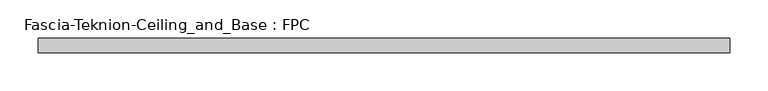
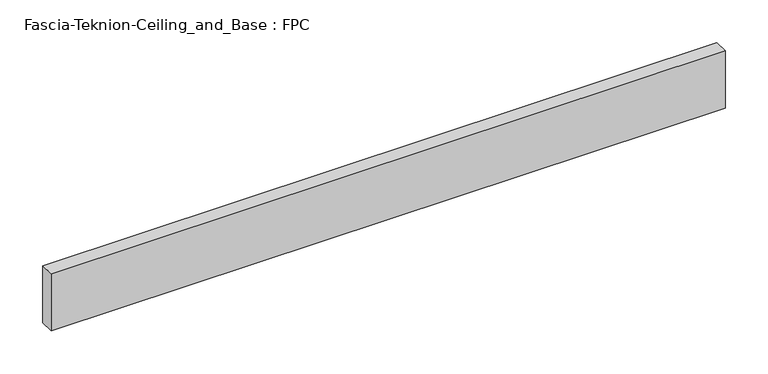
"""IFC4 building model written with IfcOpenShell, lengths in millimetres: proxy geometry, Fascia-Teknion-Ceiling_and_Base : FPC."""

import ifcopenshell
import ifcopenshell.guid

model = None  # the IFC model being written
_history = None  # IfcOwnerHistory: only IFC2X3 demands one
_inside = {}  # id of a spatial element -> (the spatial element, [elements in it])
_under = {}  # id of a project, library or spatial element -> (it, [spatial elements below it])
_declared = {}  # id of a project -> (the project, [libraries it declares])
_typed = {}  # id of a type object -> (the type object, [elements of that type])
_made_of = {}  # id of a material, layer set ... -> (it, [elements and type objects made of it])


def new_model(schema):
    """Start an empty IFC model of exactly this schema.

    Asked for "IFC4X3", IfcOpenShell would pick the latest addendum, in which some entities
    have other attributes; the version numbers below select the first issue.
    IFC2X3 requires an IfcOwnerHistory on every rooted entity: one is made here for all.
    """
    global model, _history
    if schema == "IFC4X3":
        model = ifcopenshell.file(schema_version=(4, 3, 0, 0))
    else:
        model = ifcopenshell.file(schema=schema)
    _inside.clear()
    _under.clear()
    _declared.clear()
    _typed.clear()
    _made_of.clear()
    _history = None
    if model.schema == "IFC2X3":
        org = make("IfcOrganization", Name="unknown")
        user = make(
            "IfcPersonAndOrganization",
            ThePerson=make("IfcPerson", FamilyName="unknown"),
            TheOrganization=org,
        )
        app = make(
            "IfcApplication",
            ApplicationDeveloper=org,
            Version="unknown",
            ApplicationFullName="unknown",
            ApplicationIdentifier="unknown",
        )
        _history = make(
            "IfcOwnerHistory",
            OwningUser=user,
            OwningApplication=app,
            ChangeAction="ADDED",
            CreationDate=0,
        )
    return model


def make(cls, **values):
    """One entity of the class cls with the attributes given. An attribute that is None is left unset."""
    return model.create_entity(
        cls, **{name: value for name, value in values.items() if value is not None}
    )


def rooted(cls, **values):
    """An entity with a GlobalId (a new one), such as an element, a storey or a relation."""
    return make(cls, GlobalId=ifcopenshell.guid.new(), OwnerHistory=_history, **values)


def si_unit(unit_type, name, prefix=None):
    """IfcSIUnit, for example si_unit("LENGTHUNIT", "METRE", prefix="MILLI")."""
    return make("IfcSIUnit", UnitType=unit_type, Prefix=prefix, Name=name)


def assignment(units):
    """IfcUnitAssignment: the units of a project."""
    return None if units is None else make("IfcUnitAssignment", Units=units)


def point(xyz):
    """IfcCartesianPoint."""
    return None if xyz is None else make("IfcCartesianPoint", Coordinates=xyz)


def direction(xyz):
    """IfcDirection."""
    return None if xyz is None else make("IfcDirection", DirectionRatios=xyz)


def frame(location, z_axis=None, x_axis=None):
    """IfcAxis2Placement3D, a coordinate frame: its origin and axes. An axis left out is left unset."""
    return make(
        "IfcAxis2Placement3D",
        Location=point(location),
        Axis=direction(z_axis),
        RefDirection=direction(x_axis),
    )


def origin():
    """The frame at (0, 0, 0) with its axes left unset."""
    return frame((0.0, 0.0, 0.0))


def origin_with_axes():
    """The frame at (0, 0, 0) with the z axis (0, 0, 1) and the x axis (1, 0, 0) written out."""
    return frame((0.0, 0.0, 0.0), z_axis=(0.0, 0.0, 1.0), x_axis=(1.0, 0.0, 0.0))


def place(relative_to, where):
    """IfcLocalPlacement: puts the frame where relative to a parent placement (None: the world)."""
    return make(
        "IfcLocalPlacement", PlacementRelTo=relative_to, RelativePlacement=where
    )


def context(
    kind, dimensions, precision=None, world=None, true_north=None, identifier=None
):
    """IfcGeometricRepresentationContext, for example the 3D "Model" context."""
    return make(
        "IfcGeometricRepresentationContext",
        ContextIdentifier=identifier,
        ContextType=kind,
        CoordinateSpaceDimension=dimensions,
        Precision=precision,
        WorldCoordinateSystem=world,
        TrueNorth=true_north,
    )


def project(units=None, contexts=None):
    """IfcProject with its units and contexts."""
    return rooted(
        "IfcProject",
        Name="project",
        RepresentationContexts=contexts,
        UnitsInContext=assignment(units),
    )


def spatial(cls, under=None, at=None, **own):
    """A site, building, storey or space (cls), placed at a placement, below another one or the project."""
    s = rooted(cls, ObjectPlacement=at, **own)
    if under is not None:
        _under.setdefault(under.id(), (under, []))[1].append(s)
    return s


def polyline(points):
    """IfcPolyline through the points."""
    return make("IfcPolyline", Points=[point(p) for p in points])


def outline(outer, holes=None, kind="AREA"):
    """IfcArbitraryClosedProfileDef: a profile drawn as a closed curve; with holes, ...WithVoids."""
    if holes is None:
        return make("IfcArbitraryClosedProfileDef", ProfileType=kind, OuterCurve=outer)
    return make(
        "IfcArbitraryProfileDefWithVoids",
        ProfileType=kind,
        OuterCurve=outer,
        InnerCurves=holes,
    )


def extrude(swept, where, along, depth):
    """IfcExtrudedAreaSolid: the profile swept, set in the frame where, extruded along a direction by depth."""
    return make(
        "IfcExtrudedAreaSolid",
        SweptArea=swept,
        Position=where,
        ExtrudedDirection=direction(along),
        Depth=depth,
    )


def shape(context_of_items, identifier, shape_type, items):
    """IfcShapeRepresentation: the items that make up one representation, for example the "Body"."""
    return make(
        "IfcShapeRepresentation",
        ContextOfItems=context_of_items,
        RepresentationIdentifier=identifier,
        RepresentationType=shape_type,
        Items=items,
    )


def source(mapping_origin, context_of_items, identifier, shape_type, items):
    """IfcRepresentationMap: a shape defined once, which mapped items show again and again."""
    return make(
        "IfcRepresentationMap",
        MappingOrigin=mapping_origin,
        MappedRepresentation=shape(context_of_items, identifier, shape_type, items),
    )


def transform(
    local_origin,
    x_axis=None,
    y_axis=None,
    z_axis=None,
    scale=None,
    scale2=None,
    scale3=None,
    uniform=True,
):
    """IfcCartesianTransformationOperator3D, or its non-uniform kind. x_axis, y_axis, z_axis: its Axis1, 2, 3."""
    if uniform:
        return make(
            "IfcCartesianTransformationOperator3D",
            Axis1=direction(x_axis),
            Axis2=direction(y_axis),
            LocalOrigin=point(local_origin),
            Scale=scale,
            Axis3=direction(z_axis),
        )
    return make(
        "IfcCartesianTransformationOperator3DnonUniform",
        Axis1=direction(x_axis),
        Axis2=direction(y_axis),
        LocalOrigin=point(local_origin),
        Scale=scale,
        Axis3=direction(z_axis),
        Scale2=scale2,
        Scale3=scale3,
    )


def mapped(mapping_source, mapping_target):
    """IfcMappedItem: shows the shape of a source again, moved by a transform."""
    return make(
        "IfcMappedItem", MappingSource=mapping_source, MappingTarget=mapping_target
    )


def made_of(thing, what):
    """Note that an element or type object is made of a material, layer set ...; save() writes the relation."""
    if what is not None:
        _made_of.setdefault(what.id(), (what, []))[1].append(thing)
    return thing


def element(
    cls,
    number,
    at=None,
    inside=None,
    cuts=None,
    type_object=None,
    material=None,
    context=None,
    identifier="Body",
    shape_type=None,
    held_by="IfcProductDefinitionShape",
    body=None,
    shapes=None,
    **own,
):
    """One element of the class cls, such as IfcWall. Its Tag is "e" and its number.

    at: its placement. inside: the storey or other place that contains it. cuts: it is an
    opening in that element (IfcRelVoidsElement). A single representation is given by context,
    identifier, shape_type and body (its items); several are given by shapes. held_by: the class
    of the entity that holds the representations. save() writes the other relations.
    """
    e = rooted(cls, Tag="e%d" % number, ObjectPlacement=at, **own)
    if body is not None:
        shapes = [shape(context, identifier, shape_type, body)]
    if shapes is not None:
        e.Representation = make(held_by, Representations=shapes)
    if inside is not None:
        _inside.setdefault(inside.id(), (inside, []))[1].append(e)
    if cuts is not None:
        rooted(
            "IfcRelVoidsElement", RelatingBuildingElement=cuts, RelatedOpeningElement=e
        )
    if type_object is not None:
        _typed.setdefault(type_object.id(), (type_object, []))[1].append(e)
    return made_of(e, material)


def aggregate(whole, parts):
    """IfcRelAggregates: a whole, such as a stair, and the parts it consists of."""
    return rooted("IfcRelAggregates", RelatingObject=whole, RelatedObjects=parts)


def save(model, path):
    """Write the relations noted so far, then the file.

    IfcRelAggregates (storeys below a building ...), IfcRelContainedInSpatialStructure (elements
    in a storey), IfcRelDefinesByType, IfcRelAssociatesMaterial and IfcRelDeclares: one each for
    every whole, place, type object, material and project.
    """
    for whole, parts in _under.values():
        aggregate(whole, parts)
    for where, things in _inside.values():
        rooted(
            "IfcRelContainedInSpatialStructure",
            RelatedElements=things,
            RelatingStructure=where,
        )
    for kind, things in _typed.values():
        rooted("IfcRelDefinesByType", RelatedObjects=things, RelatingType=kind)
    for what, things in _made_of.values():
        rooted("IfcRelAssociatesMaterial", RelatedObjects=things, RelatingMaterial=what)
    for by, libraries in _declared.values():
        rooted("IfcRelDeclares", RelatingContext=by, RelatedDefinitions=libraries)
    model.write(path)


def fascia_teknion_ceiling_and_base_fpc_b0ac7cd3(model_context):
    return source(origin(), model_context, "Body", "SweptSolid", [
        extrude(outline(polyline([(454.0305563, 0.0), (-454.0305562, 0.0), (-454.0305562, 19.05), (454.0305563, 19.05), (454.0305563, 0.0)])), origin_with_axes(), (0.0, 0.0, 1.0), 81.28),
    ])


if __name__ == "__main__":
    model = new_model("IFC4")
    model_context = context("Model", 3, world=origin())
    ifc_project = project(units=[si_unit("LENGTHUNIT", "METRE", prefix="MILLI")], contexts=[model_context])
    site = spatial("IfcSite", under=ifc_project)
    building = spatial("IfcBuilding", under=site)
    placement = place(None, origin())
    fascia_teknion_ceiling_and_base_fpc_shape = fascia_teknion_ceiling_and_base_fpc_b0ac7cd3(model_context)
    element("IfcBuildingElementProxy", 1, Name="Fascia-Teknion-Ceiling_and_Base : FPC", ObjectType="Fascia-Teknion-Ceiling_and_Base : FPC", at=placement, inside=building, context=model_context, shape_type="MappedRepresentation", body=[
        mapped(fascia_teknion_ceiling_and_base_fpc_shape, transform((0.0, 0.0, 0.0), x_axis=(1.0, 0.0, 0.0), y_axis=(0.0, 1.0, 0.0), z_axis=(0.0, 0.0, 1.0))),
    ])
    save(model, "model.ifc")
